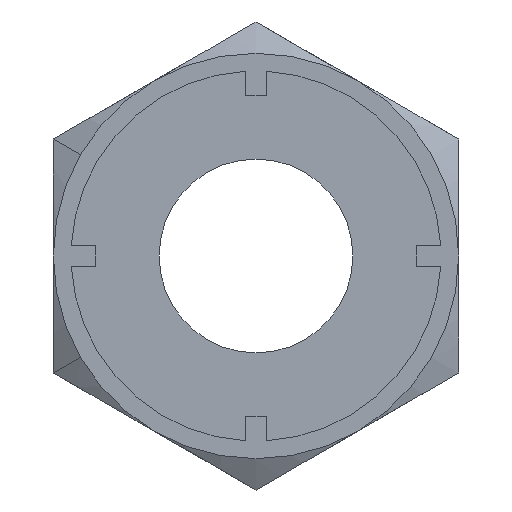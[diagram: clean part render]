
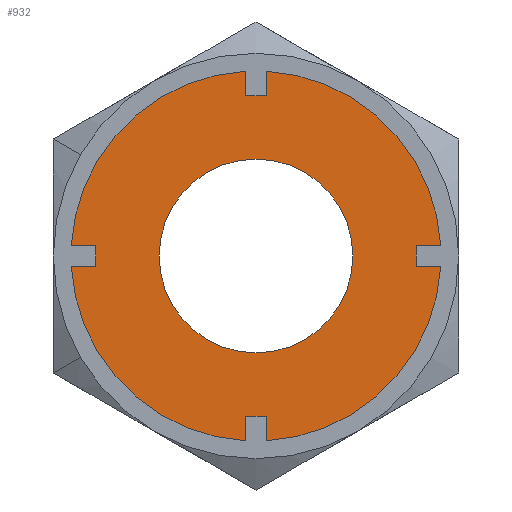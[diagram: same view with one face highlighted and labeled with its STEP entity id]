
A CAD part, left-side view. The second image highlights one B-rep face of the part: STEP entity #932.
In plain terms, the highlighted planar face has unit normal (-1, 0, 0).
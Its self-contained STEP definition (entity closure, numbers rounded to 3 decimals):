
#130=CARTESIAN_POINT('',(-30.0,0.,11.0));
#131=VERTEX_POINT('',#130);
#140=CARTESIAN_POINT('',(-30.0,11.0,0.0));
#141=VERTEX_POINT('',#140);
#142=CARTESIAN_POINT('',(-30.0,0.0,0.0));
#143=DIRECTION('',(1.0,0.0,0.0));
#144=DIRECTION('',(0.0,1.0,0.0));
#145=AXIS2_PLACEMENT_3D('',#142,#143,#144);
#146=CIRCLE('',#145,11.0);
#147=EDGE_CURVE('',#141,#131,#146,.T.);
#332=CARTESIAN_POINT('',(-30.0,0.,-11.0));
#333=VERTEX_POINT('',#332);
#342=CARTESIAN_POINT('',(-30.0,-11.0,0.));
#343=VERTEX_POINT('',#342);
#344=CARTESIAN_POINT('',(-30.0,0.0,0.0));
#345=DIRECTION('',(1.0,0.0,0.0));
#346=DIRECTION('',(0.0,1.0,0.0));
#347=AXIS2_PLACEMENT_3D('',#344,#345,#346);
#348=CIRCLE('',#347,11.0);
#349=EDGE_CURVE('',#343,#333,#348,.T.);
#383=CARTESIAN_POINT('',(-30.0,0.0,0.0));
#384=DIRECTION('',(1.0,0.0,0.0));
#385=DIRECTION('',(0.0,1.0,0.0));
#386=AXIS2_PLACEMENT_3D('',#383,#384,#385);
#387=CIRCLE('',#386,11.0);
#388=EDGE_CURVE('',#333,#141,#387,.T.);
#400=CARTESIAN_POINT('',(-30.0,20.968,1.15));
#401=VERTEX_POINT('',#400);
#416=CARTESIAN_POINT('',(-30.0,18.2,1.15));
#417=VERTEX_POINT('',#416);
#424=CARTESIAN_POINT('',(-30.0,20.968,1.15));
#425=DIRECTION('',(0.0,-1.0,0.0));
#426=VECTOR('',#425,2.768);
#427=LINE('',#424,#426);
#428=EDGE_CURVE('',#401,#417,#427,.T.);
#438=CARTESIAN_POINT('',(-30.0,20.968,-1.15));
#439=VERTEX_POINT('',#438);
#448=CARTESIAN_POINT('',(-30.0,18.2,-1.15));
#449=VERTEX_POINT('',#448);
#450=CARTESIAN_POINT('',(-30.0,18.2,-1.15));
#451=DIRECTION('',(0.0,1.0,0.0));
#452=VECTOR('',#451,2.768);
#453=LINE('',#450,#452);
#454=EDGE_CURVE('',#449,#439,#453,.T.);
#485=CARTESIAN_POINT('',(-30.0,18.2,1.15));
#486=DIRECTION('',(0.0,0.0,-1.0));
#487=VECTOR('',#486,2.3);
#488=LINE('',#485,#487);
#489=EDGE_CURVE('',#417,#449,#488,.T.);
#502=CARTESIAN_POINT('',(-30.0,-1.15,20.968));
#503=VERTEX_POINT('',#502);
#518=CARTESIAN_POINT('',(-30.0,-1.15,18.2));
#519=VERTEX_POINT('',#518);
#526=CARTESIAN_POINT('',(-30.0,-1.15,20.968));
#527=DIRECTION('',(0.0,0.0,-1.0));
#528=VECTOR('',#527,2.768);
#529=LINE('',#526,#528);
#530=EDGE_CURVE('',#503,#519,#529,.T.);
#540=CARTESIAN_POINT('',(-30.0,1.15,20.968));
#541=VERTEX_POINT('',#540);
#550=CARTESIAN_POINT('',(-30.0,1.15,18.2));
#551=VERTEX_POINT('',#550);
#552=CARTESIAN_POINT('',(-30.0,1.15,18.2));
#553=DIRECTION('',(0.0,0.0,1.0));
#554=VECTOR('',#553,2.768);
#555=LINE('',#552,#554);
#556=EDGE_CURVE('',#551,#541,#555,.T.);
#587=CARTESIAN_POINT('',(-30.0,-1.15,18.2));
#588=DIRECTION('',(0.0,1.0,0.0));
#589=VECTOR('',#588,2.3);
#590=LINE('',#587,#589);
#591=EDGE_CURVE('',#519,#551,#590,.T.);
#604=CARTESIAN_POINT('',(-30.0,-20.968,-1.15));
#605=VERTEX_POINT('',#604);
#620=CARTESIAN_POINT('',(-30.0,-18.2,-1.15));
#621=VERTEX_POINT('',#620);
#628=CARTESIAN_POINT('',(-30.0,-20.968,-1.15));
#629=DIRECTION('',(0.0,1.0,0.0));
#630=VECTOR('',#629,2.768);
#631=LINE('',#628,#630);
#632=EDGE_CURVE('',#605,#621,#631,.T.);
#642=CARTESIAN_POINT('',(-30.0,-20.968,1.15));
#643=VERTEX_POINT('',#642);
#652=CARTESIAN_POINT('',(-30.0,-18.2,1.15));
#653=VERTEX_POINT('',#652);
#654=CARTESIAN_POINT('',(-30.0,-18.2,1.15));
#655=DIRECTION('',(0.0,-1.0,0.0));
#656=VECTOR('',#655,2.768);
#657=LINE('',#654,#656);
#658=EDGE_CURVE('',#653,#643,#657,.T.);
#689=CARTESIAN_POINT('',(-30.0,-18.2,-1.15));
#690=DIRECTION('',(0.0,0.0,1.0));
#691=VECTOR('',#690,2.3);
#692=LINE('',#689,#691);
#693=EDGE_CURVE('',#621,#653,#692,.T.);
#706=CARTESIAN_POINT('',(-30.0,1.15,-20.968));
#707=VERTEX_POINT('',#706);
#722=CARTESIAN_POINT('',(-30.0,1.15,-18.2));
#723=VERTEX_POINT('',#722);
#730=CARTESIAN_POINT('',(-30.0,1.15,-20.968));
#731=DIRECTION('',(0.0,0.0,1.0));
#732=VECTOR('',#731,2.768);
#733=LINE('',#730,#732);
#734=EDGE_CURVE('',#707,#723,#733,.T.);
#744=CARTESIAN_POINT('',(-30.0,-1.15,-20.968));
#745=VERTEX_POINT('',#744);
#754=CARTESIAN_POINT('',(-30.0,-1.15,-18.2));
#755=VERTEX_POINT('',#754);
#756=CARTESIAN_POINT('',(-30.0,-1.15,-18.2));
#757=DIRECTION('',(0.0,0.0,-1.0));
#758=VECTOR('',#757,2.768);
#759=LINE('',#756,#758);
#760=EDGE_CURVE('',#755,#745,#759,.T.);
#791=CARTESIAN_POINT('',(-30.0,1.15,-18.2));
#792=DIRECTION('',(0.0,-1.0,0.0));
#793=VECTOR('',#792,2.3);
#794=LINE('',#791,#793);
#795=EDGE_CURVE('',#723,#755,#794,.T.);
#807=CARTESIAN_POINT('',(-30.0,0.0,0.0));
#808=DIRECTION('',(1.0,0.0,0.0));
#809=DIRECTION('',(0.0,1.0,0.0));
#810=AXIS2_PLACEMENT_3D('',#807,#808,#809);
#811=CIRCLE('',#810,21.0);
#812=EDGE_CURVE('',#605,#745,#811,.T.);
#831=CARTESIAN_POINT('',(-30.0,0.0,0.0));
#832=DIRECTION('',(1.0,0.0,0.0));
#833=DIRECTION('',(0.0,1.0,0.0));
#834=AXIS2_PLACEMENT_3D('',#831,#832,#833);
#835=CIRCLE('',#834,21.0);
#836=EDGE_CURVE('',#503,#643,#835,.T.);
#863=CARTESIAN_POINT('',(-30.0,0.0,0.0));
#864=DIRECTION('',(1.0,0.0,0.0));
#865=DIRECTION('',(0.0,1.0,0.0));
#866=AXIS2_PLACEMENT_3D('',#863,#864,#865);
#867=CIRCLE('',#866,21.0);
#868=EDGE_CURVE('',#707,#439,#867,.T.);
#879=CARTESIAN_POINT('',(-30.0,0.0,0.0));
#880=DIRECTION('',(1.0,0.0,0.0));
#881=DIRECTION('',(0.0,1.0,0.0));
#882=AXIS2_PLACEMENT_3D('',#879,#880,#881);
#883=CIRCLE('',#882,21.0);
#884=EDGE_CURVE('',#401,#541,#883,.T.);
#897=CARTESIAN_POINT('',(-30.0,-23.065,-23.065));
#898=DIRECTION('',(-1.0,0.0,0.0));
#899=DIRECTION('',(0.0,0.0,1.0));
#900=AXIS2_PLACEMENT_3D('',#897,#898,#899);
#901=PLANE('',#900);
#902=ORIENTED_EDGE('',*,*,#428,.T.);
#903=ORIENTED_EDGE('',*,*,#489,.T.);
#904=ORIENTED_EDGE('',*,*,#454,.T.);
#905=ORIENTED_EDGE('',*,*,#868,.F.);
#906=ORIENTED_EDGE('',*,*,#734,.T.);
#907=ORIENTED_EDGE('',*,*,#795,.T.);
#908=ORIENTED_EDGE('',*,*,#760,.T.);
#909=ORIENTED_EDGE('',*,*,#812,.F.);
#910=ORIENTED_EDGE('',*,*,#632,.T.);
#911=ORIENTED_EDGE('',*,*,#693,.T.);
#912=ORIENTED_EDGE('',*,*,#658,.T.);
#913=ORIENTED_EDGE('',*,*,#836,.F.);
#914=ORIENTED_EDGE('',*,*,#530,.T.);
#915=ORIENTED_EDGE('',*,*,#591,.T.);
#916=ORIENTED_EDGE('',*,*,#556,.T.);
#917=ORIENTED_EDGE('',*,*,#884,.F.);
#918=EDGE_LOOP('',(#902,#903,#904,#905,#906,#907,#908,#909,#910,#911,#912,#913,#914,#915,#916,#917));
#919=FACE_OUTER_BOUND('',#918,.T.);
#920=ORIENTED_EDGE('',*,*,#147,.T.);
#921=CARTESIAN_POINT('',(-30.0,0.0,0.0));
#922=DIRECTION('',(1.0,0.0,0.0));
#923=DIRECTION('',(0.0,1.0,0.0));
#924=AXIS2_PLACEMENT_3D('',#921,#922,#923);
#925=CIRCLE('',#924,11.0);
#926=EDGE_CURVE('',#131,#343,#925,.T.);
#927=ORIENTED_EDGE('',*,*,#926,.T.);
#928=ORIENTED_EDGE('',*,*,#349,.T.);
#929=ORIENTED_EDGE('',*,*,#388,.T.);
#930=EDGE_LOOP('',(#920,#927,#928,#929));
#931=FACE_BOUND('',#930,.T.);
#932=ADVANCED_FACE('',(#919,#931),#901,.T.);
